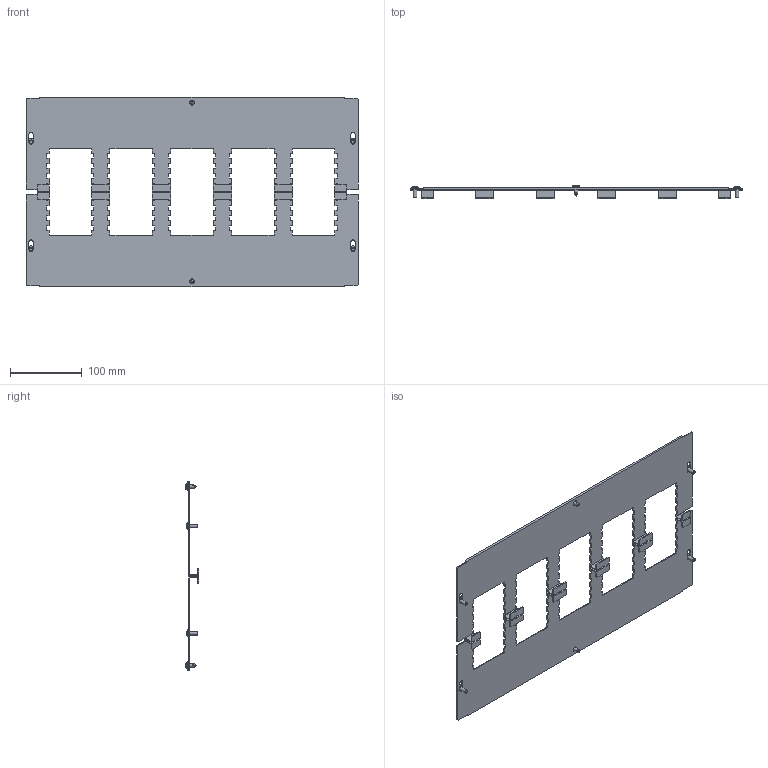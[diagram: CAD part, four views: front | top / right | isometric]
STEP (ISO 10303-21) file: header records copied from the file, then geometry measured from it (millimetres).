
FILE_DESCRIPTION(('Open CASCADE Model'),'2;1');
FILE_NAME('Open CASCADE Shape Model','2025-02-21T14:48:43',('Author'),( 'Open CASCADE'),'Open CASCADE STEP processor 7.8','Open CASCADE 7.8' ,'Unknown');
FILE_SCHEMA(('AUTOMOTIVE_DESIGN { 1 0 10303 214 1 1 1 1 }'));
Length unit declared in the file: millimetre
Products named in the file (4): Compound1; Solid1; Solid2; Solid3
Assembly tree (8 placements, depth 2):
  Compound1
    Solid1  x2
    Solid2  x2
    Solid3  x4
Bounding box: 464 x 19.31 x 265 mm (x, y, z)
Volume: 153870.8 mm3; surface area: 211425.3 mm2
Topology: 8 solids, 8 shells, 690 faces, 1936 edges, 1260 vertices
Faces by surface type: plane 620, cylinder 28, cone 14, torus 12, sphere 10, bspline 6
Full cylindrical faces by diameter (mm): 4.8 x2, 5 x4, 6 x2, 7 x2, 9.5 x6
Entity records: 11282 total; most frequent: CARTESIAN_POINT 2676, ORIENTED_EDGE 1864, DIRECTION 1616, EDGE_CURVE 932, LINE 850, VECTOR 850, VERTEX_POINT 613, AXIS2_PLACEMENT_3D 383
